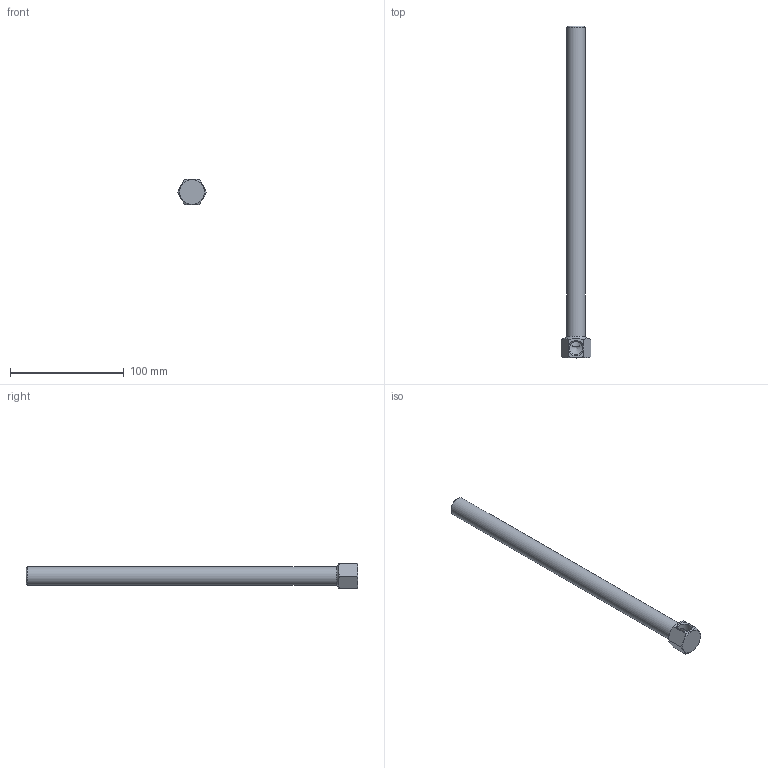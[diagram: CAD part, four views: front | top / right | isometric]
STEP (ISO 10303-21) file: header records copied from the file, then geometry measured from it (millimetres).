
FILE_DESCRIPTION(/* description */ (''),/* implementation_level */ '2;1');
FILE_NAME(/* name */ 'C:/Users/drich/Desktop/1438B-11-1_2 v1.step',/* time_stamp */ '2019-12-29T15:28:47-06:00',/* author */ (''),/* organization */ (''),/* preprocessor_version */ 'ST-DEVELOPER v18',/* originating_system */ 'Autodesk Translation Framework v8.12.0.6',/* authorisation */ '');
FILE_SCHEMA (('AUTOMOTIVE_DESIGN { 1 0 10303 214 3 1 1 }'));
Length unit declared in the file: inch
Products named in the file (1): 1438B-11-1_2
Bounding box: 25.66 x 292.1 x 22.23 mm (x, y, z)
Volume: 33763.4 mm3; surface area: 27081.2 mm2
Topology: 1 solids, 1 shells, 23 faces, 62 edges, 40 vertices
Faces by surface type: plane 10, cone 8, cylinder 4, torus 1
Full cylindrical faces by diameter (mm): 11.668 x1, 11.887 x1, 16.537 x1
Entity records: 821 total; most frequent: CARTESIAN_POINT 247, ORIENTED_EDGE 122, DIRECTION 104, EDGE_CURVE 61, AXIS2_PLACEMENT_3D 43, VERTEX_POINT 40, EDGE_LOOP 25, FACE_OUTER_BOUND 23
